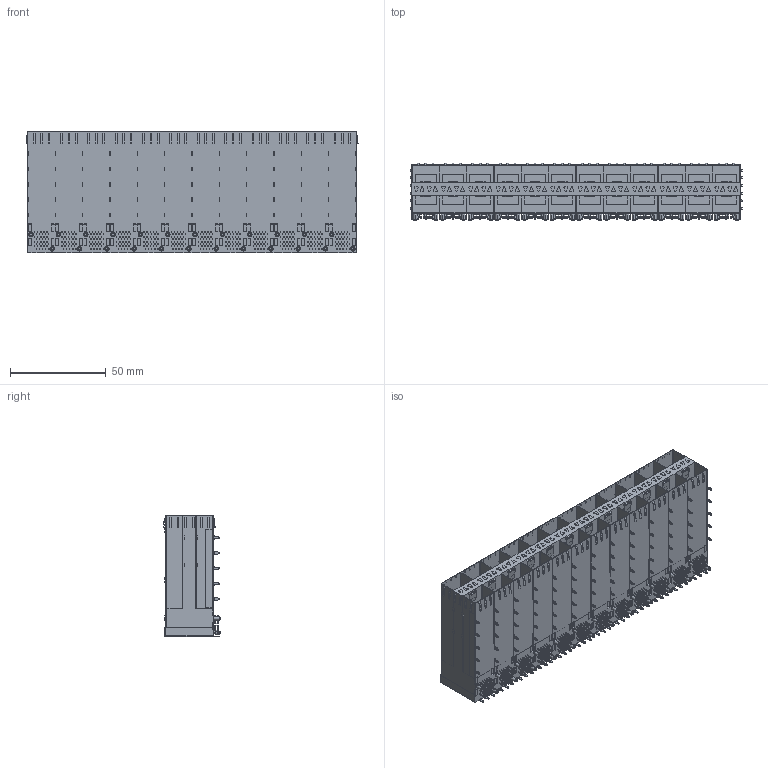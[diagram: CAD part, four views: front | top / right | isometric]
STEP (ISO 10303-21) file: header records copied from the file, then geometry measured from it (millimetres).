
FILE_DESCRIPTION (( 'STEP AP214' ), '1' );
FILE_NAME ('SFP 2X12 有月牙 内外灯(下上下上) 3D.STEP', '2025-09-01T03:56:58', ( '桑三博客' ), ( 'Www.SangSan.Cn' ), 'SwSTEP 2.0', 'SolidWorks 2018', '' );
FILE_SCHEMA (( 'AUTOMOTIVE_DESIGN' ));
Length unit declared in the file: millimetre
Products named in the file (1): SFP 2X12 有月牙 内外灯(下上下上)  3D
Bounding box: 173.05 x 29.8 x 63.5 mm (x, y, z)
Volume: 139107.6 mm3; surface area: 94184.6 mm2
Topology: 1 solids, 1 shells, 6846 faces, 18134 edges, 12054 vertices
Faces by surface type: plane 5078, cylinder 1670, cone 96, sphere 2
Entity records: 211002 total; most frequent: CARTESIAN_POINT 37033, ORIENTED_EDGE 36264, DIRECTION 35262, EDGE_CURVE 18132, VECTOR 14696, LINE 14696, VERTEX_POINT 12054, AXIS2_PLACEMENT_3D 10283
